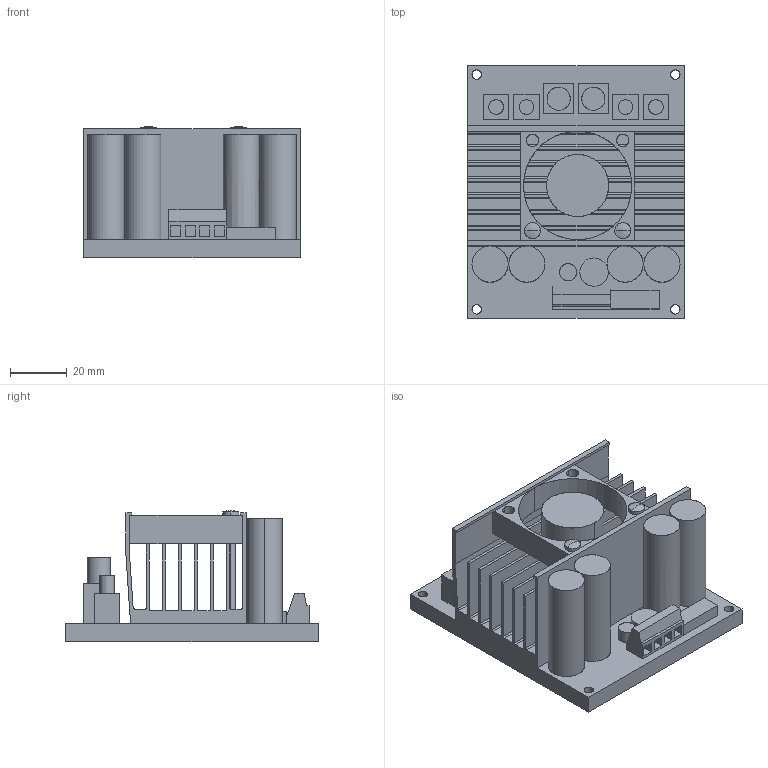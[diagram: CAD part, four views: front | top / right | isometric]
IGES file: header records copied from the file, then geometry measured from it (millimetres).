
Start section: SolidWorks IGES file using analytic representation for surfaces
Global section: file name: \\FILESERVER\Server\2x60 images\2x60assembly.IGS; native system: SolidWorks 2011; preprocessor: SolidWorks 2011; author: John; date: 140226.162402; units: inch
Bounding box: 76.2 x 88.9 x 46.13 mm (x, y, z)
Surface area: 73463.7 mm2 (no closed solid volume)
Topology: 0 solids, 0 shells, 217 faces, 3094 edges, 3090 vertices
Faces by surface type: bspline 138, revolution 79
